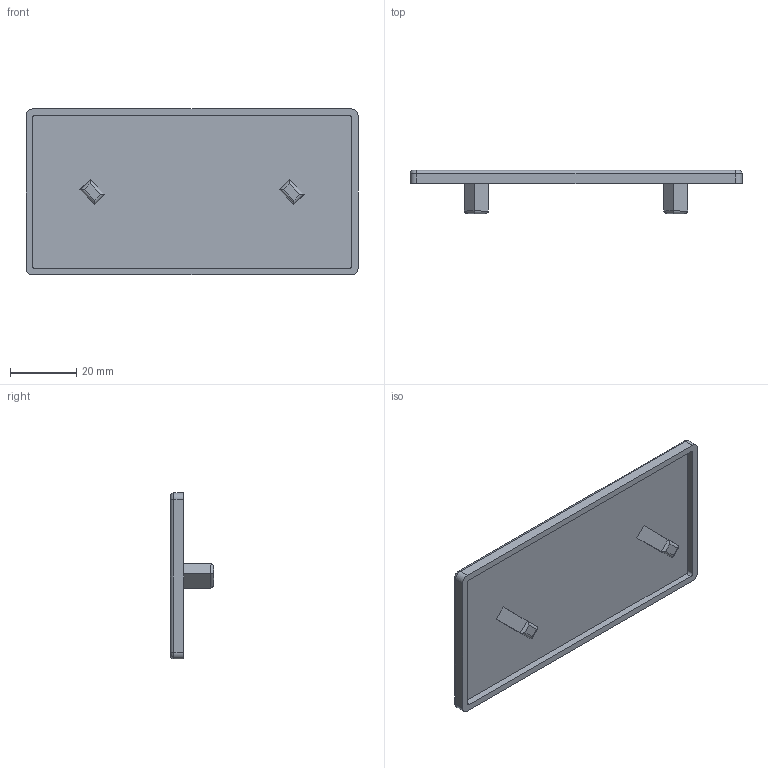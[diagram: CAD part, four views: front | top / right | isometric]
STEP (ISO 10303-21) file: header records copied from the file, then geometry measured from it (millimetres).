
FILE_DESCRIPTION (( 'STEP AP203' ), '1' );
FILE_NAME ('J5C10.STEP', '2018-08-29T04:26:57', ( 'sr-d11' ), ( 'MouseComputer PC' ), 'SwSTEP 2.0', 'SolidWorks 2014', '' );
FILE_SCHEMA (( 'CONFIG_CONTROL_DESIGN' ));
Length unit declared in the file: millimetre
Products named in the file (1): J5C10
Bounding box: 100 x 13 x 50 mm (x, y, z)
Volume: 11660.8 mm3; surface area: 12056.4 mm2
Topology: 1 solids, 1 shells, 45 faces, 104 edges, 64 vertices
Faces by surface type: plane 21, cylinder 20, torus 4
Entity records: 1335 total; most frequent: CARTESIAN_POINT 238, DIRECTION 216, ORIENTED_EDGE 208, EDGE_CURVE 104, AXIS2_PLACEMENT_3D 74, VECTOR 68, LINE 68, VERTEX_POINT 64
